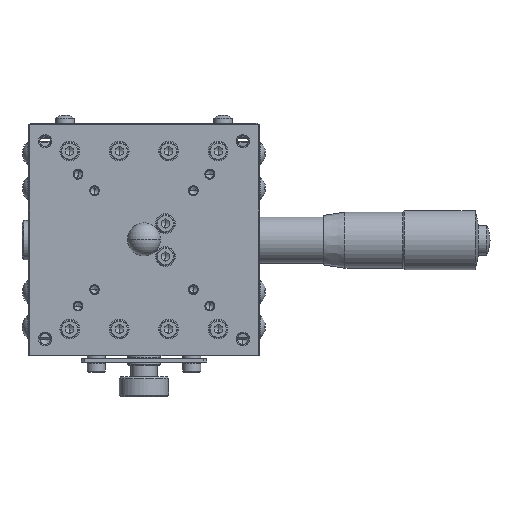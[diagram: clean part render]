
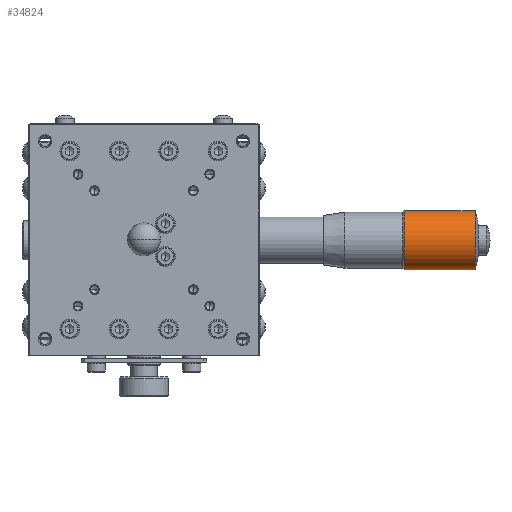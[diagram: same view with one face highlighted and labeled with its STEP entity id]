
A CAD part, top view. The second image highlights one B-rep face of the part: STEP entity #34824.
In plain terms, the highlighted cylindrical face has radius 9 mm (diameter 18 mm), a partial arc.
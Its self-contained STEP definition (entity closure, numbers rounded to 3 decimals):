
#4692 = DIRECTION ( 'NONE',  ( -1., 0., 0. ) ) ;
#4693 = VECTOR ( 'NONE', #4692, 1000. ) ;
#4694 = CARTESIAN_POINT ( 'NONE',  ( -2.669, 9., 0. ) ) ;
#4695 = LINE ( 'NONE', #4694, #4693 ) ;
#4696 = CARTESIAN_POINT ( 'NONE',  ( 91., 9., 0. ) ) ;
#4697 = CARTESIAN_POINT ( 'NONE',  ( 91., -9., 0. ) ) ;
#4698 = DIRECTION ( 'NONE',  ( 0., -1., 0. ) ) ;
#4699 = DIRECTION ( 'NONE',  ( -1., 0., 0. ) ) ;
#4700 = CARTESIAN_POINT ( 'NONE',  ( 91., 0., 0. ) ) ;
#4701 = AXIS2_PLACEMENT_3D ( 'NONE', #4700, #4699, #4698 ) ;
#4702 = DIRECTION ( 'NONE',  ( 0., -1., 0. ) ) ;
#4703 = DIRECTION ( 'NONE',  ( -1., 0., 0. ) ) ;
#4704 = CARTESIAN_POINT ( 'NONE',  ( -2.669, 0., 0. ) ) ;
#4705 = AXIS2_PLACEMENT_3D ( 'NONE', #4704, #4703, #4702 ) ;
#4706 = CIRCLE ( 'NONE', #4701, 9. ) ;
#4707 = CYLINDRICAL_SURFACE ( 'NONE', #4705, 9. ) ;
#4708 = FACE_OUTER_BOUND ( 'NONE', #34825, .T. ) ;
#4713 = CARTESIAN_POINT ( 'NONE',  ( 69.5, 9., 0. ) ) ;
#4714 = DIRECTION ( 'NONE',  ( 0., -1., 0. ) ) ;
#4715 = DIRECTION ( 'NONE',  ( -1., 0., 0. ) ) ;
#4716 = CARTESIAN_POINT ( 'NONE',  ( 69.5, 0., 0. ) ) ;
#4717 = AXIS2_PLACEMENT_3D ( 'NONE', #4716, #4715, #4714 ) ;
#4718 = CIRCLE ( 'NONE', #4717, 9. ) ;
#4730 = CARTESIAN_POINT ( 'NONE',  ( 69.5, -9., 0. ) ) ;
#4783 = DIRECTION ( 'NONE',  ( -1., 0., 0. ) ) ;
#4784 = VECTOR ( 'NONE', #4783, 1000. ) ;
#4785 = CARTESIAN_POINT ( 'NONE',  ( -2.669, -9., 0. ) ) ;
#4786 = LINE ( 'NONE', #4785, #4784 ) ;
#34820 = EDGE_CURVE ( 'NONE', #34846, #34821, #4718, .T. ) ;
#34821 = VERTEX_POINT ( 'NONE', #4713 ) ;
#34824 = ADVANCED_FACE ( 'NONE', ( #4708 ), #4707, .T. ) ;
#34825 = EDGE_LOOP ( 'NONE', ( #34826, #34830, #34832, #34885 ) ) ;
#34826 = ORIENTED_EDGE ( 'NONE', *, *, #34827, .T. ) ;
#34827 = EDGE_CURVE ( 'NONE', #34828, #34829, #4706, .T. ) ;
#34828 = VERTEX_POINT ( 'NONE', #4697 ) ;
#34829 = VERTEX_POINT ( 'NONE', #4696 ) ;
#34830 = ORIENTED_EDGE ( 'NONE', *, *, #34831, .T. ) ;
#34831 = EDGE_CURVE ( 'NONE', #34829, #34821, #4695, .T. ) ;
#34832 = ORIENTED_EDGE ( 'NONE', *, *, #34820, .F. ) ;
#34846 = VERTEX_POINT ( 'NONE', #4730 ) ;
#34885 = ORIENTED_EDGE ( 'NONE', *, *, #34886, .F. ) ;
#34886 = EDGE_CURVE ( 'NONE', #34828, #34846, #4786, .T. ) ;
